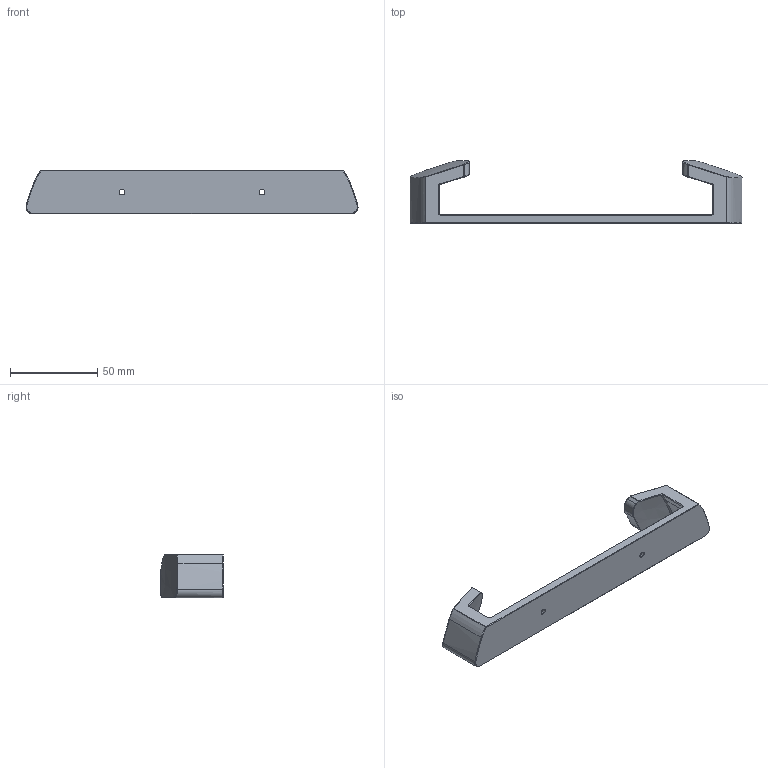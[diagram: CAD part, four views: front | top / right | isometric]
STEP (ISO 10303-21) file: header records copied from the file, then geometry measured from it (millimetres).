
FILE_DESCRIPTION (( 'STEP AP214' ), '1' );
FILE_NAME ('Topfdeckelhalterung 18cm.STEP', '2025-05-02T14:05:56', ( '' ), ( '' ), 'SwSTEP 2.0', 'SolidWorks 2012', '' );
FILE_SCHEMA (( 'AUTOMOTIVE_DESIGN' ));
Length unit declared in the file: millimetre
Products named in the file (1): Topfdeckelhalterung 18cm
Bounding box: 189.76 x 35.87 x 25 mm (x, y, z)
Volume: 37659.4 mm3; surface area: 16379.5 mm2
Topology: 1 solids, 1 shells, 132 faces, 318 edges, 186 vertices
Faces by surface type: bspline 62, plane 27, cylinder 23, cone 10, torus 10
Entity records: 6582 total; most frequent: CARTESIAN_POINT 4019, ORIENTED_EDGE 632, DIRECTION 366, EDGE_CURVE 316, VERTEX_POINT 186, B_SPLINE_CURVE_WITH_KNOTS 162, AXIS2_PLACEMENT_3D 147, EDGE_LOOP 136
